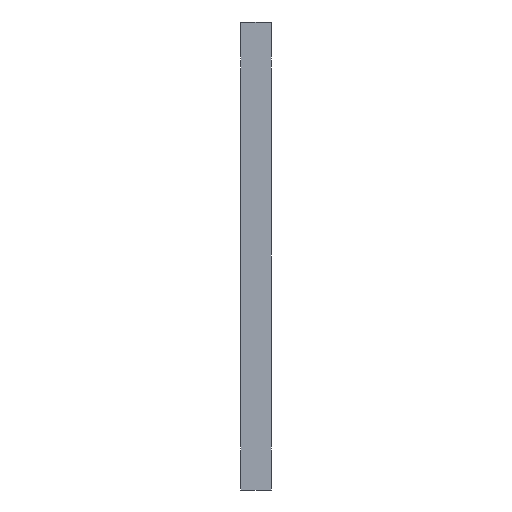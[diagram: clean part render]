
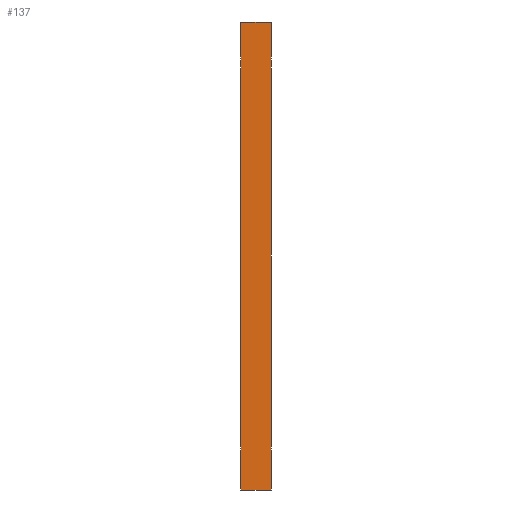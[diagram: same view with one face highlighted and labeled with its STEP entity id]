
A CAD part, left-side view. The second image highlights one B-rep face of the part: STEP entity #137.
In plain terms, the highlighted planar face has unit normal (-1, 0, 0).
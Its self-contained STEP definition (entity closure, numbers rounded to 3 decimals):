
#21 = EDGE_CURVE('',#22,#24,#26,.T.);
#22 = VERTEX_POINT('',#23);
#23 = CARTESIAN_POINT('',(-52.,-0.,-53.));
#24 = VERTEX_POINT('',#25);
#25 = CARTESIAN_POINT('',(-52.,-7.,-53.));
#26 = SURFACE_CURVE('',#27,(#31,#43),.PCURVE_S1.);
#27 = LINE('',#28,#29);
#28 = CARTESIAN_POINT('',(-52.,-0.,-53.));
#29 = VECTOR('',#30,1.);
#30 = DIRECTION('',(0.,-1.,0.));
#31 = PCURVE('',#32,#37);
#32 = PLANE('',#33);
#33 = AXIS2_PLACEMENT_3D('',#34,#35,#36);
#34 = CARTESIAN_POINT('',(-52.,0.,-53.));
#35 = DIRECTION('',(-0.,0.,1.));
#36 = DIRECTION('',(1.,0.,0.));
#37 = DEFINITIONAL_REPRESENTATION('',(#38),#42);
#38 = LINE('',#39,#40);
#39 = CARTESIAN_POINT('',(0.,0.));
#40 = VECTOR('',#41,1.);
#41 = DIRECTION('',(0.,-1.));
#42 = ( GEOMETRIC_REPRESENTATION_CONTEXT(2) 
PARAMETRIC_REPRESENTATION_CONTEXT() REPRESENTATION_CONTEXT('2D SPACE',''
  ) );
#43 = PCURVE('',#44,#49);
#44 = PLANE('',#45);
#45 = AXIS2_PLACEMENT_3D('',#46,#47,#48);
#46 = CARTESIAN_POINT('',(-52.,0.,53.));
#47 = DIRECTION('',(1.,0.,0.));
#48 = DIRECTION('',(0.,0.,-1.));
#49 = DEFINITIONAL_REPRESENTATION('',(#50),#54);
#50 = LINE('',#51,#52);
#51 = CARTESIAN_POINT('',(106.,0.));
#52 = VECTOR('',#53,1.);
#53 = DIRECTION('',(0.,-1.));
#54 = ( GEOMETRIC_REPRESENTATION_CONTEXT(2) 
PARAMETRIC_REPRESENTATION_CONTEXT() REPRESENTATION_CONTEXT('2D SPACE',''
  ) );
#72 = PLANE('',#73);
#73 = AXIS2_PLACEMENT_3D('',#74,#75,#76);
#74 = CARTESIAN_POINT('',(0.,-7.,0.));
#75 = DIRECTION('',(-0.,-1.,-0.));
#76 = DIRECTION('',(0.,0.,-1.));
#126 = PLANE('',#127);
#127 = AXIS2_PLACEMENT_3D('',#128,#129,#130);
#128 = CARTESIAN_POINT('',(0.,0.,0.));
#129 = DIRECTION('',(-0.,-1.,-0.));
#130 = DIRECTION('',(0.,0.,-1.));
#137 = ADVANCED_FACE('',(#138),#44,.F.);
#138 = FACE_BOUND('',#139,.F.);
#139 = EDGE_LOOP('',(#140,#170,#191,#192));
#140 = ORIENTED_EDGE('',*,*,#141,.T.);
#141 = EDGE_CURVE('',#142,#144,#146,.T.);
#142 = VERTEX_POINT('',#143);
#143 = CARTESIAN_POINT('',(-52.,0.,53.));
#144 = VERTEX_POINT('',#145);
#145 = CARTESIAN_POINT('',(-52.,-7.,53.));
#146 = SURFACE_CURVE('',#147,(#151,#158),.PCURVE_S1.);
#147 = LINE('',#148,#149);
#148 = CARTESIAN_POINT('',(-52.,0.,53.));
#149 = VECTOR('',#150,1.);
#150 = DIRECTION('',(0.,-1.,0.));
#151 = PCURVE('',#44,#152);
#152 = DEFINITIONAL_REPRESENTATION('',(#153),#157);
#153 = LINE('',#154,#155);
#154 = CARTESIAN_POINT('',(0.,0.));
#155 = VECTOR('',#156,1.);
#156 = DIRECTION('',(0.,-1.));
#157 = ( GEOMETRIC_REPRESENTATION_CONTEXT(2) 
PARAMETRIC_REPRESENTATION_CONTEXT() REPRESENTATION_CONTEXT('2D SPACE',''
  ) );
#158 = PCURVE('',#159,#164);
#159 = PLANE('',#160);
#160 = AXIS2_PLACEMENT_3D('',#161,#162,#163);
#161 = CARTESIAN_POINT('',(52.,0.,53.));
#162 = DIRECTION('',(-0.,-0.,-1.));
#163 = DIRECTION('',(-1.,0.,0.));
#164 = DEFINITIONAL_REPRESENTATION('',(#165),#169);
#165 = LINE('',#166,#167);
#166 = CARTESIAN_POINT('',(104.,0.));
#167 = VECTOR('',#168,1.);
#168 = DIRECTION('',(0.,-1.));
#169 = ( GEOMETRIC_REPRESENTATION_CONTEXT(2) 
PARAMETRIC_REPRESENTATION_CONTEXT() REPRESENTATION_CONTEXT('2D SPACE',''
  ) );
#170 = ORIENTED_EDGE('',*,*,#171,.T.);
#171 = EDGE_CURVE('',#144,#24,#172,.T.);
#172 = SURFACE_CURVE('',#173,(#177,#184),.PCURVE_S1.);
#173 = LINE('',#174,#175);
#174 = CARTESIAN_POINT('',(-52.,-7.,53.));
#175 = VECTOR('',#176,1.);
#176 = DIRECTION('',(0.,0.,-1.));
#177 = PCURVE('',#44,#178);
#178 = DEFINITIONAL_REPRESENTATION('',(#179),#183);
#179 = LINE('',#180,#181);
#180 = CARTESIAN_POINT('',(0.,-7.));
#181 = VECTOR('',#182,1.);
#182 = DIRECTION('',(1.,0.));
#183 = ( GEOMETRIC_REPRESENTATION_CONTEXT(2) 
PARAMETRIC_REPRESENTATION_CONTEXT() REPRESENTATION_CONTEXT('2D SPACE',''
  ) );
#184 = PCURVE('',#72,#185);
#185 = DEFINITIONAL_REPRESENTATION('',(#186),#190);
#186 = LINE('',#187,#188);
#187 = CARTESIAN_POINT('',(-53.,-52.));
#188 = VECTOR('',#189,1.);
#189 = DIRECTION('',(1.,0.));
#190 = ( GEOMETRIC_REPRESENTATION_CONTEXT(2) 
PARAMETRIC_REPRESENTATION_CONTEXT() REPRESENTATION_CONTEXT('2D SPACE',''
  ) );
#191 = ORIENTED_EDGE('',*,*,#21,.F.);
#192 = ORIENTED_EDGE('',*,*,#193,.F.);
#193 = EDGE_CURVE('',#142,#22,#194,.T.);
#194 = SURFACE_CURVE('',#195,(#199,#206),.PCURVE_S1.);
#195 = LINE('',#196,#197);
#196 = CARTESIAN_POINT('',(-52.,0.,53.));
#197 = VECTOR('',#198,1.);
#198 = DIRECTION('',(0.,0.,-1.));
#199 = PCURVE('',#44,#200);
#200 = DEFINITIONAL_REPRESENTATION('',(#201),#205);
#201 = LINE('',#202,#203);
#202 = CARTESIAN_POINT('',(0.,0.));
#203 = VECTOR('',#204,1.);
#204 = DIRECTION('',(1.,0.));
#205 = ( GEOMETRIC_REPRESENTATION_CONTEXT(2) 
PARAMETRIC_REPRESENTATION_CONTEXT() REPRESENTATION_CONTEXT('2D SPACE',''
  ) );
#206 = PCURVE('',#126,#207);
#207 = DEFINITIONAL_REPRESENTATION('',(#208),#212);
#208 = LINE('',#209,#210);
#209 = CARTESIAN_POINT('',(-53.,-52.));
#210 = VECTOR('',#211,1.);
#211 = DIRECTION('',(1.,0.));
#212 = ( GEOMETRIC_REPRESENTATION_CONTEXT(2) 
PARAMETRIC_REPRESENTATION_CONTEXT() REPRESENTATION_CONTEXT('2D SPACE',''
  ) );
